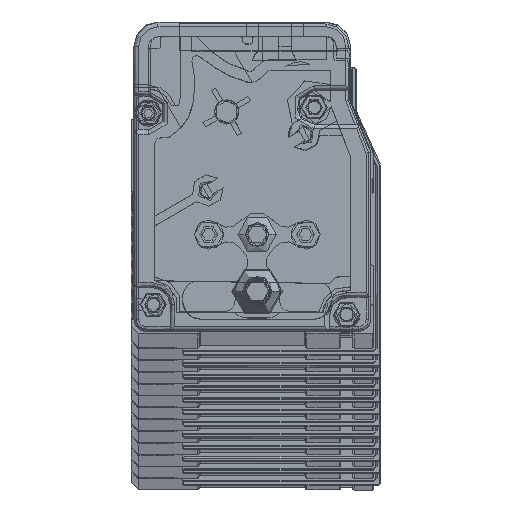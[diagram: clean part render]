
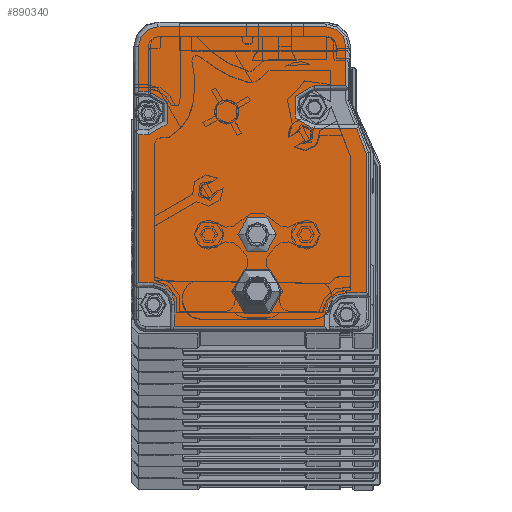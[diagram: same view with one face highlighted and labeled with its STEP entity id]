
A CAD part, top view. The second image highlights one B-rep face of the part: STEP entity #890340.
In plain terms, the highlighted planar face has unit normal (0, 0, 1).
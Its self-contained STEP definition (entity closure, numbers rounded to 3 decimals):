
#780440=CARTESIAN_POINT('',(-20.559,10.124,
2558.89));
#780450=DIRECTION('',(1.,0.,0.));
#780460=VECTOR('',#780450,1.);
#780470=LINE('',#780440,#780460);
#780480=CARTESIAN_POINT('',(-25.559,10.124,
2558.89));
#780490=VERTEX_POINT('',#780480);
#780500=CARTESIAN_POINT('',(-21.559,10.124,
2558.89));
#780510=VERTEX_POINT('',#780500);
#780520=EDGE_CURVE('',#780490,#780510,#780470,.T.);
#817630=CARTESIAN_POINT('',(-20.559,51.727,
2558.89));
#817640=DIRECTION('',(1.,0.,0.));
#817650=VECTOR('',#817640,1.);
#817660=LINE('',#817630,#817650);
#817670=CARTESIAN_POINT('',(-68.559,51.727,
2558.89));
#817680=VERTEX_POINT('',#817670);
#817690=CARTESIAN_POINT('',(-66.559,51.727,
2558.89));
#817700=VERTEX_POINT('',#817690);
#817710=EDGE_CURVE('',#817680,#817700,#817660,.T.);
#820950=CARTESIAN_POINT('',(-20.559,52.924,
2558.89));
#820960=DIRECTION('',(-1.,0.,0.));
#820970=VECTOR('',#820960,1.);
#820980=LINE('',#820950,#820970);
#820990=CARTESIAN_POINT('',(-25.759,52.924,
2558.89));
#821000=VERTEX_POINT('',#820990);
#821010=CARTESIAN_POINT('',(-32.309,52.924,
2558.89));
#821020=VERTEX_POINT('',#821010);
#821030=EDGE_CURVE('',#821000,#821020,#820980,.T.);
#824270=CARTESIAN_POINT('',(-32.309,48.424,
2558.89));
#824280=DIRECTION('',(0.,0.,-1.));
#824290=DIRECTION('',(-1.,0.,0.));
#824300=AXIS2_PLACEMENT_3D('',#824270,#824280,#824290);
#824310=CIRCLE('',#824300,4.5);
#824320=CARTESIAN_POINT('',(-32.309,43.924,
2558.89));
#824330=VERTEX_POINT('',#824320);
#824340=EDGE_CURVE('',#824330,#821020,#824310,.T.);
#826940=CARTESIAN_POINT('',(-64.559,61.024,
2558.89));
#826950=DIRECTION('',(0.,0.,1.));
#826960=DIRECTION('',(1.,0.,0.));
#826970=AXIS2_PLACEMENT_3D('',#826940,#826950,#826960);
#826980=CIRCLE('',#826970,4.);
#826990=CARTESIAN_POINT('',(-64.559,65.024,
2558.89));
#827000=VERTEX_POINT('',#826990);
#827010=CARTESIAN_POINT('',(-68.559,61.024,
2558.89));
#827020=VERTEX_POINT('',#827010);
#827030=EDGE_CURVE('',#827000,#827020,#826980,.T.);
#827890=CARTESIAN_POINT('',(-68.559,2.124,
2558.89));
#827900=DIRECTION('',(0.,-1.,0.));
#827910=VECTOR('',#827900,1.);
#827920=LINE('',#827890,#827910);
#827930=EDGE_CURVE('',#827020,#817680,#827920,.T.);
#836910=CARTESIAN_POINT('',(-65.559,7.624,
2558.89));
#836920=DIRECTION('',(0.,0.,-1.));
#836930=DIRECTION('',(-1.,0.,0.));
#836940=AXIS2_PLACEMENT_3D('',#836910,#836920,#836930);
#836950=CIRCLE('',#836940,4.5);
#836960=CARTESIAN_POINT('',(-65.559,12.124,
2558.89));
#836970=VERTEX_POINT('',#836960);
#836980=CARTESIAN_POINT('',(-61.059,7.624,
2558.89));
#836990=VERTEX_POINT('',#836980);
#837000=EDGE_CURVE('',#836970,#836990,#836950,.T.);
#853400=CARTESIAN_POINT('',(-25.559,5.624,
2558.89));
#853410=DIRECTION('',(0.,0.,-1.));
#853420=DIRECTION('',(-1.,0.,0.));
#853430=AXIS2_PLACEMENT_3D('',#853400,#853410,#853420);
#853440=CIRCLE('',#853430,4.5);
#853450=CARTESIAN_POINT('',(-30.059,5.624,
2558.89));
#853460=VERTEX_POINT('',#853450);
#853470=EDGE_CURVE('',#853460,#780490,#853440,.T.);
#882030=CARTESIAN_POINT('',(-61.059,2.124,
2558.89));
#882040=DIRECTION('',(0.,-1.,0.));
#882050=VECTOR('',#882040,1.);
#882060=LINE('',#882030,#882050);
#882070=CARTESIAN_POINT('',(-61.059,3.124,
2558.89));
#882080=VERTEX_POINT('',#882070);
#882090=EDGE_CURVE('',#836990,#882080,#882060,.T.);
#888710=CARTESIAN_POINT('',(-7.243,2.124,
2558.89));
#888720=DIRECTION('',(0.362,-0.932,0.));
#888730=VECTOR('',#888720,1.);
#888740=LINE('',#888710,#888730);
#888750=CARTESIAN_POINT('',(-23.499,43.924,
2558.89));
#888760=VERTEX_POINT('',#888750);
#888770=CARTESIAN_POINT('',(-21.559,38.937,
2558.89));
#888780=VERTEX_POINT('',#888770);
#888790=EDGE_CURVE('',#888760,#888780,#888740,.T.);
#889070=CARTESIAN_POINT('',(-20.265,1.758,
2558.89));
#889080=DIRECTION('',(0.,0.,-1.));
#889090=DIRECTION('',(-1.,0.,0.));
#889100=AXIS2_PLACEMENT_3D('',#889070,#889080,#889090);
#889110=PLANE('',#889100);
#889120=CARTESIAN_POINT('',(-44.056,10.421,
2558.89));
#889130=DIRECTION('',(0.,0.,-1.));
#889140=DIRECTION('',(-1.,0.,0.));
#889150=AXIS2_PLACEMENT_3D('',#889120,#889130,#889140);
#889160=CIRCLE('',#889150,5.);
#889170=CARTESIAN_POINT('',(-39.056,10.421,
2558.89));
#889180=VERTEX_POINT('',#889170);
#889190=CARTESIAN_POINT('',(-49.056,10.421,
2558.89));
#889200=VERTEX_POINT('',#889190);
#889210=EDGE_CURVE('',#889180,#889200,#889160,.T.);
#889220=ORIENTED_EDGE('',*,*,#889210,.T.);
#889230=EDGE_CURVE('',#889200,#889180,#889160,.T.);
#889240=ORIENTED_EDGE('',*,*,#889230,.T.);
#889250=EDGE_LOOP('',(#889240,#889220));
#889260=FACE_BOUND('',#889250,.T.);
#889270=CARTESIAN_POINT('',(-44.059,22.124,
2558.89));
#889280=DIRECTION('',(0.,0.,1.));
#889290=DIRECTION('',(-1.,0.,0.));
#889300=AXIS2_PLACEMENT_3D('',#889270,#889280,#889290);
#889310=CIRCLE('',#889300,4.);
#889320=CARTESIAN_POINT('',(-40.059,22.124,
2558.89));
#889330=VERTEX_POINT('',#889320);
#889340=CARTESIAN_POINT('',(-48.059,22.124,
2558.89));
#889350=VERTEX_POINT('',#889340);
#889360=EDGE_CURVE('',#889330,#889350,#889310,.T.);
#889370=ORIENTED_EDGE('',*,*,#889360,.F.);
#889380=EDGE_CURVE('',#889350,#889330,#889310,.T.);
#889390=ORIENTED_EDGE('',*,*,#889380,.F.);
#889400=EDGE_LOOP('',(#889390,#889370));
#889410=FACE_BOUND('',#889400,.T.);
#889420=ORIENTED_EDGE('',*,*,#882090,.T.);
#889430=ORIENTED_EDGE('',*,*,#837000,.T.);
#889440=CARTESIAN_POINT('',(-20.559,12.124,
2558.89));
#889450=DIRECTION('',(1.,0.,0.));
#889460=VECTOR('',#889450,1.);
#889470=LINE('',#889440,#889460);
#889480=CARTESIAN_POINT('',(-68.559,12.124,
2558.89));
#889490=VERTEX_POINT('',#889480);
#889500=EDGE_CURVE('',#889490,#836970,#889470,.T.);
#889510=ORIENTED_EDGE('',*,*,#889500,.T.);
#889520=CARTESIAN_POINT('',(-68.559,2.124,
2558.89));
#889530=DIRECTION('',(0.,-1.,0.));
#889540=VECTOR('',#889530,1.);
#889550=LINE('',#889520,#889540);
#889560=CARTESIAN_POINT('',(-68.559,42.727,
2558.89));
#889570=VERTEX_POINT('',#889560);
#889580=EDGE_CURVE('',#889570,#889490,#889550,.T.);
#889590=ORIENTED_EDGE('',*,*,#889580,.T.);
#889600=CARTESIAN_POINT('',(-20.559,42.727,
2558.89));
#889610=DIRECTION('',(-1.,0.,0.));
#889620=VECTOR('',#889610,1.);
#889630=LINE('',#889600,#889620);
#889640=CARTESIAN_POINT('',(-66.559,42.727,
2558.89));
#889650=VERTEX_POINT('',#889640);
#889660=EDGE_CURVE('',#889650,#889570,#889630,.T.);
#889670=ORIENTED_EDGE('',*,*,#889660,.T.);
#889680=CARTESIAN_POINT('',(-66.559,47.227,
2558.89));
#889690=DIRECTION('',(0.,0.,-1.));
#889700=DIRECTION('',(-1.,0.,0.));
#889710=AXIS2_PLACEMENT_3D('',#889680,#889690,#889700);
#889720=CIRCLE('',#889710,4.5);
#889730=EDGE_CURVE('',#817700,#889650,#889720,.T.);
#889740=ORIENTED_EDGE('',*,*,#889730,.T.);
#889750=ORIENTED_EDGE('',*,*,#817710,.T.);
#889760=ORIENTED_EDGE('',*,*,#827930,.T.);
#889770=ORIENTED_EDGE('',*,*,#827030,.T.);
#889780=CARTESIAN_POINT('',(-20.559,65.024,
2558.89));
#889790=DIRECTION('',(-1.,0.,0.));
#889800=VECTOR('',#889790,1.);
#889810=LINE('',#889780,#889800);
#889820=CARTESIAN_POINT('',(-29.759,65.024,
2558.89));
#889830=VERTEX_POINT('',#889820);
#889840=EDGE_CURVE('',#889830,#827000,#889810,.T.);
#889850=ORIENTED_EDGE('',*,*,#889840,.T.);
#889860=CARTESIAN_POINT('',(-29.759,61.024,
2558.89));
#889870=DIRECTION('',(0.,0.,1.));
#889880=DIRECTION('',(1.,0.,0.));
#889890=AXIS2_PLACEMENT_3D('',#889860,#889870,#889880);
#889900=CIRCLE('',#889890,4.);
#889910=CARTESIAN_POINT('',(-25.759,61.024,
2558.89));
#889920=VERTEX_POINT('',#889910);
#889930=EDGE_CURVE('',#889920,#889830,#889900,.T.);
#889940=ORIENTED_EDGE('',*,*,#889930,.T.);
#889950=CARTESIAN_POINT('',(-25.759,2.124,
2558.89));
#889960=DIRECTION('',(0.,1.,0.));
#889970=VECTOR('',#889960,1.);
#889980=LINE('',#889950,#889970);
#889990=EDGE_CURVE('',#821000,#889920,#889980,.T.);
#890000=ORIENTED_EDGE('',*,*,#889990,.T.);
#890010=ORIENTED_EDGE('',*,*,#821030,.F.);
#890020=ORIENTED_EDGE('',*,*,#824340,.T.);
#890030=CARTESIAN_POINT('',(-20.559,43.924,
2558.89));
#890040=DIRECTION('',(-1.,0.,0.));
#890050=VECTOR('',#890040,1.);
#890060=LINE('',#890030,#890050);
#890070=EDGE_CURVE('',#888760,#824330,#890060,.T.);
#890080=ORIENTED_EDGE('',*,*,#890070,.T.);
#890090=ORIENTED_EDGE('',*,*,#888790,.F.);
#890100=CARTESIAN_POINT('',(-21.559,2.124,
2558.89));
#890110=DIRECTION('',(0.,-1.,0.));
#890120=VECTOR('',#890110,1.);
#890130=LINE('',#890100,#890120);
#890140=EDGE_CURVE('',#888780,#780510,#890130,.T.);
#890150=ORIENTED_EDGE('',*,*,#890140,.F.);
#890160=ORIENTED_EDGE('',*,*,#780520,.T.);
#890170=ORIENTED_EDGE('',*,*,#853470,.T.);
#890180=CARTESIAN_POINT('',(-30.059,2.124,
2558.89));
#890190=DIRECTION('',(0.,1.,0.));
#890200=VECTOR('',#890190,1.);
#890210=LINE('',#890180,#890200);
#890220=CARTESIAN_POINT('',(-30.059,3.124,
2558.89));
#890230=VERTEX_POINT('',#890220);
#890240=EDGE_CURVE('',#890230,#853460,#890210,.T.);
#890250=ORIENTED_EDGE('',*,*,#890240,.T.);
#890260=CARTESIAN_POINT('',(-20.559,3.124,
2558.89));
#890270=DIRECTION('',(-1.,0.,0.));
#890280=VECTOR('',#890270,1.);
#890290=LINE('',#890260,#890280);
#890300=EDGE_CURVE('',#890230,#882080,#890290,.T.);
#890310=ORIENTED_EDGE('',*,*,#890300,.F.);
#890320=EDGE_LOOP('',(#890310,#890250,#890170,#890160,#890150,#890090,
#890080,#890020,#890010,#890000,#889940,#889850,#889770,#889760,#889750,
#889740,#889670,#889590,#889510,#889430,#889420));
#890330=FACE_OUTER_BOUND('',#890320,.T.);
#890340=ADVANCED_FACE('',(#889260,#889410,#890330),#889110,.F.);
